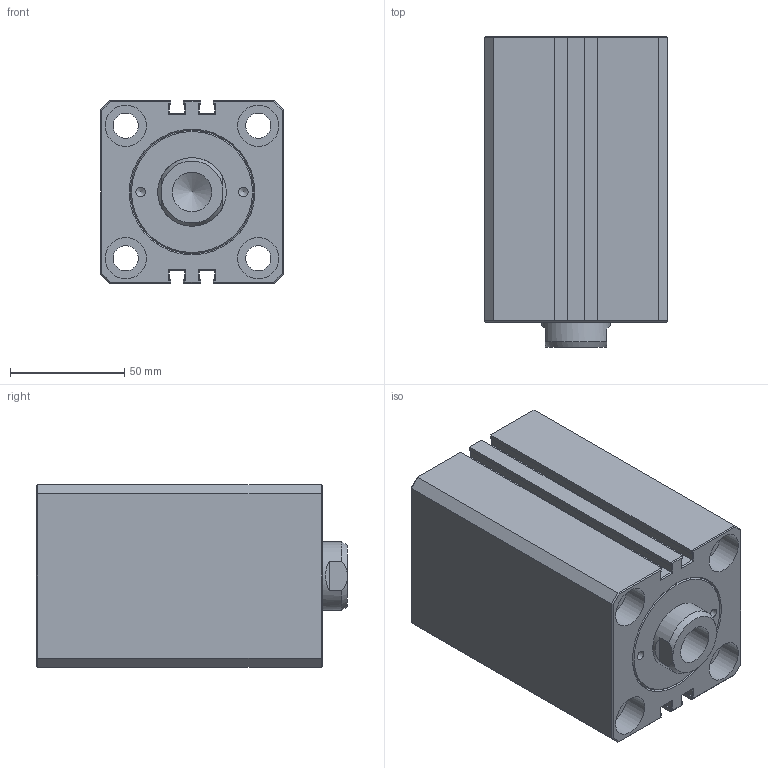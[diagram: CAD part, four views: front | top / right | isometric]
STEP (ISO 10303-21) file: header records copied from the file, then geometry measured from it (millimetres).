
FILE_DESCRIPTION(/* description */ ('Unknown'),/* implementation_level */ '2;1');
FILE_NAME(/* name */ 'HTM140-SD50X50N',/* time_stamp */ '2022-09-01T01:32:49+08:00',/* author */ ('Unknown'),/* organization */ ('Unknown'),/* preprocessor_version */ 'ST-DEVELOPER v16.7',/* originating_system */ 'DEX',/* authorisation */ $);
FILE_SCHEMA (('AUTOMOTIVE_DESIGN {1 0 10303 214 3 1 1}'));
Length unit declared in the file: millimetre
Products named in the file (1): HTM140-SD50X50N
Bounding box: 80 x 136 x 80 mm (x, y, z)
Volume: 714611.2 mm3; surface area: 79831.3 mm2
Topology: 1 solids, 1 shells, 187 faces, 428 edges, 257 vertices
Faces by surface type: plane 140, cylinder 19, cone 16, bspline 12
Full cylindrical faces by diameter (mm): 4.1 x2, 6 x1, 11 x4, 12.301 x2, 17.294 x1, 18 x8, 30 x1
Entity records: 6353 total; most frequent: CARTESIAN_POINT 1061, ORIENTED_EDGE 778, DIRECTION 768, EDGE_CURVE 389, LINE 294, VECTOR 294, VERTEX_POINT 248, FACE_BOUND 239
